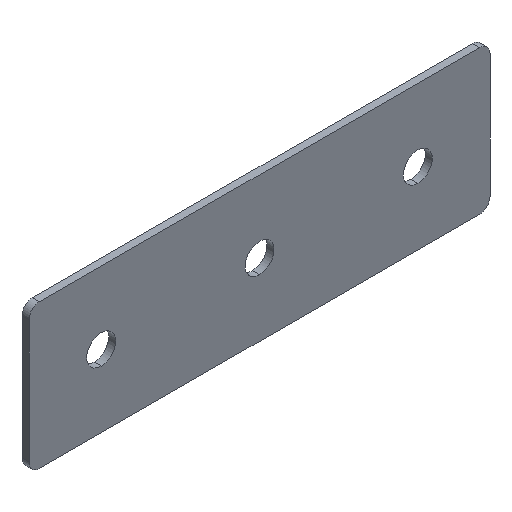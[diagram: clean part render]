
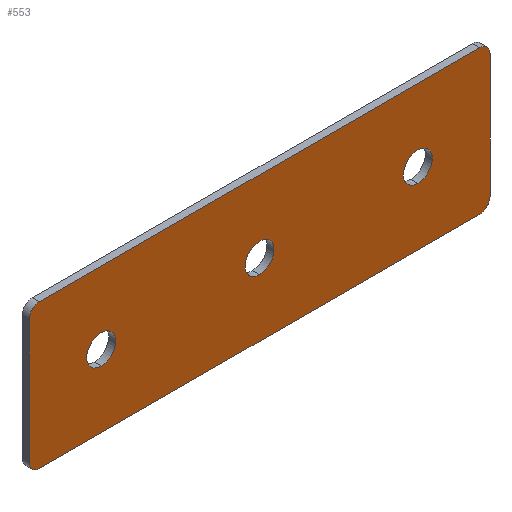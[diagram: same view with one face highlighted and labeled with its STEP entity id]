
A CAD part, isometric view. The second image highlights one B-rep face of the part: STEP entity #553.
In plain terms, the highlighted planar face has unit normal (0, -1, 0).
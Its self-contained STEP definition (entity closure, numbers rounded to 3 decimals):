
#1 = AXIS2_PLACEMENT_3D ( 'NONE', #533, #408, #306 ) ;
#13 = ORIENTED_EDGE ( 'NONE', *, *, #159, .F. ) ;
#17 = ORIENTED_EDGE ( 'NONE', *, *, #580, .T. ) ;
#22 = EDGE_CURVE ( 'NONE', #71, #515, #42, .T. ) ;
#32 = AXIS2_PLACEMENT_3D ( 'NONE', #373, #133, #277 ) ;
#42 = CIRCLE ( 'NONE', #409, 2.981 ) ;
#47 = EDGE_CURVE ( 'NONE', #122, #71, #191, .T. ) ;
#52 = DIRECTION ( 'NONE',  ( 0., 0., 1. ) ) ;
#55 = ORIENTED_EDGE ( 'NONE', *, *, #422, .F. ) ;
#57 = CARTESIAN_POINT ( 'NONE',  ( -10.135, 0., 25.019 ) ) ;
#63 = PLANE ( 'NONE',  #289 ) ;
#65 = DIRECTION ( 'NONE',  ( 0., 0., -1. ) ) ;
#69 = CIRCLE ( 'NONE', #329, 2.981 ) ;
#71 = VERTEX_POINT ( 'NONE', #557 ) ;
#77 = CIRCLE ( 'NONE', #384, 4.1 ) ;
#83 = EDGE_LOOP ( 'NONE', ( #13, #360 ) ) ;
#90 = FACE_BOUND ( 'NONE', #519, .T. ) ;
#91 = ORIENTED_EDGE ( 'NONE', *, *, #531, .T. ) ;
#98 = ORIENTED_EDGE ( 'NONE', *, *, #261, .F. ) ;
#99 = LINE ( 'NONE', #233, #293 ) ;
#117 = DIRECTION ( 'NONE',  ( 0., -1., 0. ) ) ;
#120 = EDGE_CURVE ( 'NONE', #432, #401, #77, .T. ) ;
#122 = VERTEX_POINT ( 'NONE', #567 ) ;
#133 = DIRECTION ( 'NONE',  ( 0., -1., 0. ) ) ;
#135 = LINE ( 'NONE', #581, #582 ) ;
#136 = CIRCLE ( 'NONE', #32, 4.1 ) ;
#145 = VECTOR ( 'NONE', #361, 1000. ) ;
#147 = ORIENTED_EDGE ( 'NONE', *, *, #47, .T. ) ;
#150 = DIRECTION ( 'NONE',  ( 0., 0., -1. ) ) ;
#151 = DIRECTION ( 'NONE',  ( 0., -1., 0. ) ) ;
#153 = VECTOR ( 'NONE', #431, 1000. ) ;
#159 = EDGE_CURVE ( 'NONE', #250, #546, #552, .T. ) ;
#163 = ORIENTED_EDGE ( 'NONE', *, *, #343, .T. ) ;
#168 = AXIS2_PLACEMENT_3D ( 'NONE', #588, #305, #258 ) ;
#173 = LINE ( 'NONE', #489, #145 ) ;
#175 = CARTESIAN_POINT ( 'NONE',  ( -7.154, 0., -10.019 ) ) ;
#182 = CARTESIAN_POINT ( 'NONE',  ( 55.365, 0., 11.6 ) ) ;
#186 = ORIENTED_EDGE ( 'NONE', *, *, #120, .F. ) ;
#191 = LINE ( 'NONE', #203, #153 ) ;
#194 = VERTEX_POINT ( 'NONE', #259 ) ;
#200 = AXIS2_PLACEMENT_3D ( 'NONE', #534, #585, #445 ) ;
#203 = CARTESIAN_POINT ( 'NONE',  ( -7.154, 0., -13. ) ) ;
#216 = CARTESIAN_POINT ( 'NONE',  ( 120.865, 0., -10.019 ) ) ;
#218 = DIRECTION ( 'NONE',  ( 0., 0., 1. ) ) ;
#231 = VERTEX_POINT ( 'NONE', #476 ) ;
#233 = CARTESIAN_POINT ( 'NONE',  ( 120.865, 0., -10.019 ) ) ;
#236 = CARTESIAN_POINT ( 'NONE',  ( 10.365, 0., 3.4 ) ) ;
#244 = EDGE_CURVE ( 'NONE', #546, #250, #315, .T. ) ;
#250 = VERTEX_POINT ( 'NONE', #482 ) ;
#254 = DIRECTION ( 'NONE',  ( 0., -1., 0. ) ) ;
#256 = DIRECTION ( 'NONE',  ( 0., -1., 0. ) ) ;
#258 = DIRECTION ( 'NONE',  ( 0., 0., -1. ) ) ;
#259 = CARTESIAN_POINT ( 'NONE',  ( 100.365, 0., 11.6 ) ) ;
#261 = EDGE_CURVE ( 'NONE', #312, #194, #396, .T. ) ;
#266 = CARTESIAN_POINT ( 'NONE',  ( -7.154, 0., 28. ) ) ;
#270 = DIRECTION ( 'NONE',  ( 0., 0., -1. ) ) ;
#277 = DIRECTION ( 'NONE',  ( 0., 0., 1. ) ) ;
#289 = AXIS2_PLACEMENT_3D ( 'NONE', #359, #254, #65 ) ;
#292 = FACE_OUTER_BOUND ( 'NONE', #538, .T. ) ;
#293 = VECTOR ( 'NONE', #405, 1000. ) ;
#294 = EDGE_CURVE ( 'NONE', #572, #231, #135, .T. ) ;
#296 = CIRCLE ( 'NONE', #1, 4.1 ) ;
#305 = DIRECTION ( 'NONE',  ( 0., -1., 0. ) ) ;
#306 = DIRECTION ( 'NONE',  ( 0., 0., 1. ) ) ;
#310 = EDGE_LOOP ( 'NONE', ( #461, #186 ) ) ;
#312 = VERTEX_POINT ( 'NONE', #314 ) ;
#314 = CARTESIAN_POINT ( 'NONE',  ( 100.365, 0., 3.4 ) ) ;
#315 = CIRCLE ( 'NONE', #200, 4.1 ) ;
#321 = CARTESIAN_POINT ( 'NONE',  ( 10.365, 0., 11.6 ) ) ;
#329 = AXIS2_PLACEMENT_3D ( 'NONE', #362, #117, #356 ) ;
#336 = EDGE_CURVE ( 'NONE', #515, #446, #99, .T. ) ;
#341 = FACE_BOUND ( 'NONE', #310, .T. ) ;
#343 = EDGE_CURVE ( 'NONE', #448, #493, #173, .T. ) ;
#352 = AXIS2_PLACEMENT_3D ( 'NONE', #175, #397, #481 ) ;
#353 = CARTESIAN_POINT ( 'NONE',  ( 10.365, 0., 7.5 ) ) ;
#356 = DIRECTION ( 'NONE',  ( 0., 0., -1. ) ) ;
#359 = CARTESIAN_POINT ( 'NONE',  ( 117.885, 0., -10.019 ) ) ;
#360 = ORIENTED_EDGE ( 'NONE', *, *, #244, .F. ) ;
#361 = DIRECTION ( 'NONE',  ( -1., 0., 0. ) ) ;
#362 = CARTESIAN_POINT ( 'NONE',  ( 117.885, 0., 25.019 ) ) ;
#369 = CARTESIAN_POINT ( 'NONE',  ( 120.865, 0., 25.019 ) ) ;
#373 = CARTESIAN_POINT ( 'NONE',  ( 100.365, 0., 7.5 ) ) ;
#380 = FACE_BOUND ( 'NONE', #83, .T. ) ;
#384 = AXIS2_PLACEMENT_3D ( 'NONE', #353, #399, #52 ) ;
#393 = AXIS2_PLACEMENT_3D ( 'NONE', #520, #256, #218 ) ;
#396 = CIRCLE ( 'NONE', #526, 4.1 ) ;
#397 = DIRECTION ( 'NONE',  ( 0., -1., 0. ) ) ;
#399 = DIRECTION ( 'NONE',  ( 0., -1., 0. ) ) ;
#401 = VERTEX_POINT ( 'NONE', #236 ) ;
#402 = ORIENTED_EDGE ( 'NONE', *, *, #336, .T. ) ;
#405 = DIRECTION ( 'NONE',  ( 0., 0., 1. ) ) ;
#408 = DIRECTION ( 'NONE',  ( 0., -1., 0. ) ) ;
#409 = AXIS2_PLACEMENT_3D ( 'NONE', #429, #151, #150 ) ;
#415 = CARTESIAN_POINT ( 'NONE',  ( 117.885, 0., 28. ) ) ;
#419 = ORIENTED_EDGE ( 'NONE', *, *, #455, .T. ) ;
#422 = EDGE_CURVE ( 'NONE', #194, #312, #136, .T. ) ;
#424 = ORIENTED_EDGE ( 'NONE', *, *, #22, .T. ) ;
#425 = ORIENTED_EDGE ( 'NONE', *, *, #294, .T. ) ;
#429 = CARTESIAN_POINT ( 'NONE',  ( 117.885, 0., -10.019 ) ) ;
#431 = DIRECTION ( 'NONE',  ( 1., 0., 0. ) ) ;
#432 = VERTEX_POINT ( 'NONE', #321 ) ;
#445 = DIRECTION ( 'NONE',  ( 0., 0., 1. ) ) ;
#446 = VERTEX_POINT ( 'NONE', #369 ) ;
#448 = VERTEX_POINT ( 'NONE', #415 ) ;
#455 = EDGE_CURVE ( 'NONE', #493, #572, #484, .T. ) ;
#461 = ORIENTED_EDGE ( 'NONE', *, *, #562, .F. ) ;
#476 = CARTESIAN_POINT ( 'NONE',  ( -10.135, 0., -10.019 ) ) ;
#481 = DIRECTION ( 'NONE',  ( 0., 0., -1. ) ) ;
#482 = CARTESIAN_POINT ( 'NONE',  ( 55.365, 0., 3.4 ) ) ;
#484 = CIRCLE ( 'NONE', #168, 2.981 ) ;
#489 = CARTESIAN_POINT ( 'NONE',  ( 117.885, 0., 28. ) ) ;
#492 = CARTESIAN_POINT ( 'NONE',  ( 100.365, 0., 7.5 ) ) ;
#493 = VERTEX_POINT ( 'NONE', #266 ) ;
#515 = VERTEX_POINT ( 'NONE', #216 ) ;
#519 = EDGE_LOOP ( 'NONE', ( #98, #55 ) ) ;
#520 = CARTESIAN_POINT ( 'NONE',  ( 55.365, 0., 7.5 ) ) ;
#526 = AXIS2_PLACEMENT_3D ( 'NONE', #492, #530, #575 ) ;
#530 = DIRECTION ( 'NONE',  ( 0., -1., 0. ) ) ;
#531 = EDGE_CURVE ( 'NONE', #446, #448, #69, .T. ) ;
#533 = CARTESIAN_POINT ( 'NONE',  ( 10.365, 0., 7.5 ) ) ;
#534 = CARTESIAN_POINT ( 'NONE',  ( 55.365, 0., 7.5 ) ) ;
#538 = EDGE_LOOP ( 'NONE', ( #424, #402, #91, #163, #419, #425, #17, #147 ) ) ;
#546 = VERTEX_POINT ( 'NONE', #182 ) ;
#552 = CIRCLE ( 'NONE', #393, 4.1 ) ;
#553 = ADVANCED_FACE ( 'NONE', ( #341, #380, #90, #292 ), #63, .T. ) ;
#557 = CARTESIAN_POINT ( 'NONE',  ( 117.885, 0., -13. ) ) ;
#562 = EDGE_CURVE ( 'NONE', #401, #432, #296, .T. ) ;
#566 = CIRCLE ( 'NONE', #352, 2.981 ) ;
#567 = CARTESIAN_POINT ( 'NONE',  ( -7.154, 0., -13. ) ) ;
#572 = VERTEX_POINT ( 'NONE', #57 ) ;
#575 = DIRECTION ( 'NONE',  ( 0., 0., 1. ) ) ;
#580 = EDGE_CURVE ( 'NONE', #231, #122, #566, .T. ) ;
#581 = CARTESIAN_POINT ( 'NONE',  ( -10.135, 0., 25.019 ) ) ;
#582 = VECTOR ( 'NONE', #270, 1000. ) ;
#585 = DIRECTION ( 'NONE',  ( 0., -1., 0. ) ) ;
#588 = CARTESIAN_POINT ( 'NONE',  ( -7.154, 0., 25.019 ) ) ;
